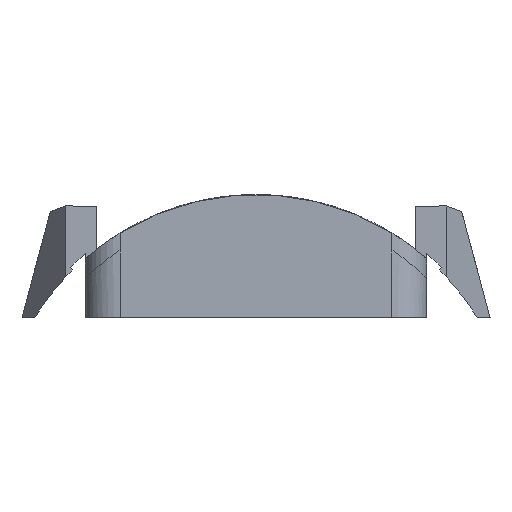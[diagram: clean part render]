
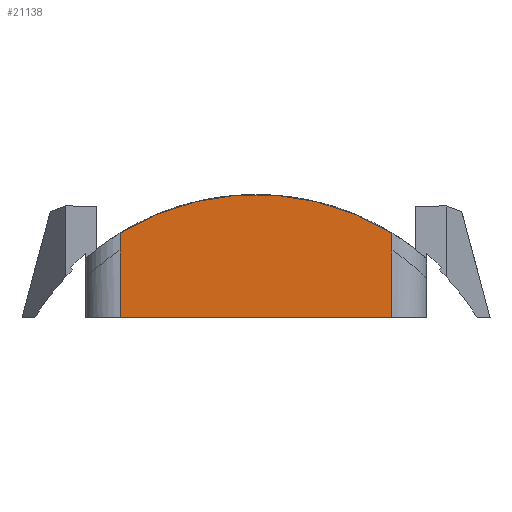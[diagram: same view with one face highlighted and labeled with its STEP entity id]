
A CAD part, left-side view. The second image highlights one B-rep face of the part: STEP entity #21138.
In plain terms, the highlighted planar face has unit normal (-1, 0, 0).
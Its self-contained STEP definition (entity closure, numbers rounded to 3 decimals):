
#22 = VERTEX_POINT('',#23);
#23 = CARTESIAN_POINT('',(245.3,10.5,17.022));
#61 = CYLINDRICAL_SURFACE('',#62,20.);
#62 = AXIS2_PLACEMENT_3D('',#63,#64,#65);
#63 = CARTESIAN_POINT('',(244.,0.,0.));
#64 = DIRECTION('',(1.,0.,0.));
#65 = DIRECTION('',(-0.,0.,1.));
#102 = CYLINDRICAL_SURFACE('',#103,2.7);
#103 = AXIS2_PLACEMENT_3D('',#104,#105,#106);
#104 = CARTESIAN_POINT('',(248.,10.5,5.));
#105 = DIRECTION('',(0.,0.,1.));
#106 = DIRECTION('',(-1.,-0.,0.));
#143 = EDGE_CURVE('',#22,#144,#146,.T.);
#144 = VERTEX_POINT('',#145);
#145 = CARTESIAN_POINT('',(245.3,-10.5,17.022));
#146 = SURFACE_CURVE('',#147,(#152,#159),.PCURVE_S1.);
#147 = CIRCLE('',#148,20.);
#148 = AXIS2_PLACEMENT_3D('',#149,#150,#151);
#149 = CARTESIAN_POINT('',(245.3,0.,0.));
#150 = DIRECTION('',(1.,0.,0.));
#151 = DIRECTION('',(-0.,0.525,0.851));
#152 = PCURVE('',#61,#153);
#153 = DEFINITIONAL_REPRESENTATION('',(#154),#158);
#154 = LINE('',#155,#156);
#155 = CARTESIAN_POINT('',(5.73,1.3));
#156 = VECTOR('',#157,1.);
#157 = DIRECTION('',(1.,0.));
#158 = ( GEOMETRIC_REPRESENTATION_CONTEXT(2) 
PARAMETRIC_REPRESENTATION_CONTEXT() REPRESENTATION_CONTEXT('2D SPACE',''
  ) );
#159 = PCURVE('',#160,#165);
#160 = PLANE('',#161);
#161 = AXIS2_PLACEMENT_3D('',#162,#163,#164);
#162 = CARTESIAN_POINT('',(245.3,-13.2,5.));
#163 = DIRECTION('',(1.,0.,0.));
#164 = DIRECTION('',(0.,0.,1.));
#165 = DEFINITIONAL_REPRESENTATION('',(#166),#170);
#166 = CIRCLE('',#167,20.);
#167 = AXIS2_PLACEMENT_2D('',#168,#169);
#168 = CARTESIAN_POINT('',(-5.,-13.2));
#169 = DIRECTION('',(0.851,-0.525));
#170 = ( GEOMETRIC_REPRESENTATION_CONTEXT(2) 
PARAMETRIC_REPRESENTATION_CONTEXT() REPRESENTATION_CONTEXT('2D SPACE',''
  ) );
#246 = CYLINDRICAL_SURFACE('',#247,2.7);
#247 = AXIS2_PLACEMENT_3D('',#248,#249,#250);
#248 = CARTESIAN_POINT('',(248.,-10.5,5.));
#249 = DIRECTION('',(0.,0.,1.));
#250 = DIRECTION('',(-1.,-0.,0.));
#14607 = EDGE_CURVE('',#14608,#22,#14610,.T.);
#14608 = VERTEX_POINT('',#14609);
#14609 = CARTESIAN_POINT('',(245.3,10.5,15.715));
#14610 = SURFACE_CURVE('',#14611,(#14615,#14622),.PCURVE_S1.);
#14611 = LINE('',#14612,#14613);
#14612 = CARTESIAN_POINT('',(245.3,10.5,15.715));
#14613 = VECTOR('',#14614,1.);
#14614 = DIRECTION('',(0.,0.,1.));
#14615 = PCURVE('',#102,#14616);
#14616 = DEFINITIONAL_REPRESENTATION('',(#14617),#14621);
#14617 = LINE('',#14618,#14619);
#14618 = CARTESIAN_POINT('',(-0.,10.715));
#14619 = VECTOR('',#14620,1.);
#14620 = DIRECTION('',(-0.,1.));
#14621 = ( GEOMETRIC_REPRESENTATION_CONTEXT(2) 
PARAMETRIC_REPRESENTATION_CONTEXT() REPRESENTATION_CONTEXT('2D SPACE',''
  ) );
#14622 = PCURVE('',#160,#14623);
#14623 = DEFINITIONAL_REPRESENTATION('',(#14624),#14628);
#14624 = LINE('',#14625,#14626);
#14625 = CARTESIAN_POINT('',(10.715,-23.7));
#14626 = VECTOR('',#14627,1.);
#14627 = DIRECTION('',(1.,0.));
#14628 = ( GEOMETRIC_REPRESENTATION_CONTEXT(2) 
PARAMETRIC_REPRESENTATION_CONTEXT() REPRESENTATION_CONTEXT('2D SPACE',''
  ) );
#14704 = CYLINDRICAL_SURFACE('',#14705,2.7);
#14705 = AXIS2_PLACEMENT_3D('',#14706,#14707,#14708);
#14706 = CARTESIAN_POINT('',(248.,10.5,10.5));
#14707 = DIRECTION('',(0.,0.,1.));
#14708 = DIRECTION('',(-1.,-0.,0.));
#16083 = PLANE('',#16084);
#16084 = AXIS2_PLACEMENT_3D('',#16085,#16086,#16087);
#16085 = CARTESIAN_POINT('',(245.3,-13.2,10.5));
#16086 = DIRECTION('',(0.,0.,1.));
#16087 = DIRECTION('',(1.,0.,0.));
#19375 = CYLINDRICAL_SURFACE('',#19376,2.7);
#19376 = AXIS2_PLACEMENT_3D('',#19377,#19378,#19379);
#19377 = CARTESIAN_POINT('',(248.,-10.5,10.5));
#19378 = DIRECTION('',(0.,0.,1.));
#19379 = DIRECTION('',(-1.,-0.,0.));
#20973 = EDGE_CURVE('',#20974,#144,#20976,.T.);
#20974 = VERTEX_POINT('',#20975);
#20975 = CARTESIAN_POINT('',(245.3,-10.5,15.715));
#20976 = SURFACE_CURVE('',#20977,(#20981,#20988),.PCURVE_S1.);
#20977 = LINE('',#20978,#20979);
#20978 = CARTESIAN_POINT('',(245.3,-10.5,15.715));
#20979 = VECTOR('',#20980,1.);
#20980 = DIRECTION('',(0.,0.,1.));
#20981 = PCURVE('',#246,#20982);
#20982 = DEFINITIONAL_REPRESENTATION('',(#20983),#20987);
#20983 = LINE('',#20984,#20985);
#20984 = CARTESIAN_POINT('',(0.,10.715));
#20985 = VECTOR('',#20986,1.);
#20986 = DIRECTION('',(0.,1.));
#20987 = ( GEOMETRIC_REPRESENTATION_CONTEXT(2) 
PARAMETRIC_REPRESENTATION_CONTEXT() REPRESENTATION_CONTEXT('2D SPACE',''
  ) );
#20988 = PCURVE('',#160,#20989);
#20989 = DEFINITIONAL_REPRESENTATION('',(#20990),#20994);
#20990 = LINE('',#20991,#20992);
#20991 = CARTESIAN_POINT('',(10.715,-2.7));
#20992 = VECTOR('',#20993,1.);
#20993 = DIRECTION('',(1.,0.));
#20994 = ( GEOMETRIC_REPRESENTATION_CONTEXT(2) 
PARAMETRIC_REPRESENTATION_CONTEXT() REPRESENTATION_CONTEXT('2D SPACE',''
  ) );
#21138 = ADVANCED_FACE('',(#21139),#160,.F.);
#21139 = FACE_BOUND('',#21140,.F.);
#21140 = EDGE_LOOP('',(#21141,#21142,#21143,#21166,#21189,#21210));
#21141 = ORIENTED_EDGE('',*,*,#143,.T.);
#21142 = ORIENTED_EDGE('',*,*,#20973,.F.);
#21143 = ORIENTED_EDGE('',*,*,#21144,.F.);
#21144 = EDGE_CURVE('',#21145,#20974,#21147,.T.);
#21145 = VERTEX_POINT('',#21146);
#21146 = CARTESIAN_POINT('',(245.3,-10.5,10.5));
#21147 = SURFACE_CURVE('',#21148,(#21152,#21159),.PCURVE_S1.);
#21148 = LINE('',#21149,#21150);
#21149 = CARTESIAN_POINT('',(245.3,-10.5,10.5));
#21150 = VECTOR('',#21151,1.);
#21151 = DIRECTION('',(0.,0.,1.));
#21152 = PCURVE('',#160,#21153);
#21153 = DEFINITIONAL_REPRESENTATION('',(#21154),#21158);
#21154 = LINE('',#21155,#21156);
#21155 = CARTESIAN_POINT('',(5.5,-2.7));
#21156 = VECTOR('',#21157,1.);
#21157 = DIRECTION('',(1.,0.));
#21158 = ( GEOMETRIC_REPRESENTATION_CONTEXT(2) 
PARAMETRIC_REPRESENTATION_CONTEXT() REPRESENTATION_CONTEXT('2D SPACE',''
  ) );
#21159 = PCURVE('',#19375,#21160);
#21160 = DEFINITIONAL_REPRESENTATION('',(#21161),#21165);
#21161 = LINE('',#21162,#21163);
#21162 = CARTESIAN_POINT('',(0.,0.));
#21163 = VECTOR('',#21164,1.);
#21164 = DIRECTION('',(0.,1.));
#21165 = ( GEOMETRIC_REPRESENTATION_CONTEXT(2) 
PARAMETRIC_REPRESENTATION_CONTEXT() REPRESENTATION_CONTEXT('2D SPACE',''
  ) );
#21166 = ORIENTED_EDGE('',*,*,#21167,.T.);
#21167 = EDGE_CURVE('',#21145,#21168,#21170,.T.);
#21168 = VERTEX_POINT('',#21169);
#21169 = CARTESIAN_POINT('',(245.3,10.5,10.5));
#21170 = SURFACE_CURVE('',#21171,(#21175,#21182),.PCURVE_S1.);
#21171 = LINE('',#21172,#21173);
#21172 = CARTESIAN_POINT('',(245.3,-13.2,10.5));
#21173 = VECTOR('',#21174,1.);
#21174 = DIRECTION('',(0.,1.,0.));
#21175 = PCURVE('',#160,#21176);
#21176 = DEFINITIONAL_REPRESENTATION('',(#21177),#21181);
#21177 = LINE('',#21178,#21179);
#21178 = CARTESIAN_POINT('',(5.5,0.));
#21179 = VECTOR('',#21180,1.);
#21180 = DIRECTION('',(0.,-1.));
#21181 = ( GEOMETRIC_REPRESENTATION_CONTEXT(2) 
PARAMETRIC_REPRESENTATION_CONTEXT() REPRESENTATION_CONTEXT('2D SPACE',''
  ) );
#21182 = PCURVE('',#16083,#21183);
#21183 = DEFINITIONAL_REPRESENTATION('',(#21184),#21188);
#21184 = LINE('',#21185,#21186);
#21185 = CARTESIAN_POINT('',(0.,0.));
#21186 = VECTOR('',#21187,1.);
#21187 = DIRECTION('',(0.,1.));
#21188 = ( GEOMETRIC_REPRESENTATION_CONTEXT(2) 
PARAMETRIC_REPRESENTATION_CONTEXT() REPRESENTATION_CONTEXT('2D SPACE',''
  ) );
#21189 = ORIENTED_EDGE('',*,*,#21190,.T.);
#21190 = EDGE_CURVE('',#21168,#14608,#21191,.T.);
#21191 = SURFACE_CURVE('',#21192,(#21196,#21203),.PCURVE_S1.);
#21192 = LINE('',#21193,#21194);
#21193 = CARTESIAN_POINT('',(245.3,10.5,10.5));
#21194 = VECTOR('',#21195,1.);
#21195 = DIRECTION('',(0.,0.,1.));
#21196 = PCURVE('',#160,#21197);
#21197 = DEFINITIONAL_REPRESENTATION('',(#21198),#21202);
#21198 = LINE('',#21199,#21200);
#21199 = CARTESIAN_POINT('',(5.5,-23.7));
#21200 = VECTOR('',#21201,1.);
#21201 = DIRECTION('',(1.,0.));
#21202 = ( GEOMETRIC_REPRESENTATION_CONTEXT(2) 
PARAMETRIC_REPRESENTATION_CONTEXT() REPRESENTATION_CONTEXT('2D SPACE',''
  ) );
#21203 = PCURVE('',#14704,#21204);
#21204 = DEFINITIONAL_REPRESENTATION('',(#21205),#21209);
#21205 = LINE('',#21206,#21207);
#21206 = CARTESIAN_POINT('',(-0.,0.));
#21207 = VECTOR('',#21208,1.);
#21208 = DIRECTION('',(-0.,1.));
#21209 = ( GEOMETRIC_REPRESENTATION_CONTEXT(2) 
PARAMETRIC_REPRESENTATION_CONTEXT() REPRESENTATION_CONTEXT('2D SPACE',''
  ) );
#21210 = ORIENTED_EDGE('',*,*,#14607,.T.);
